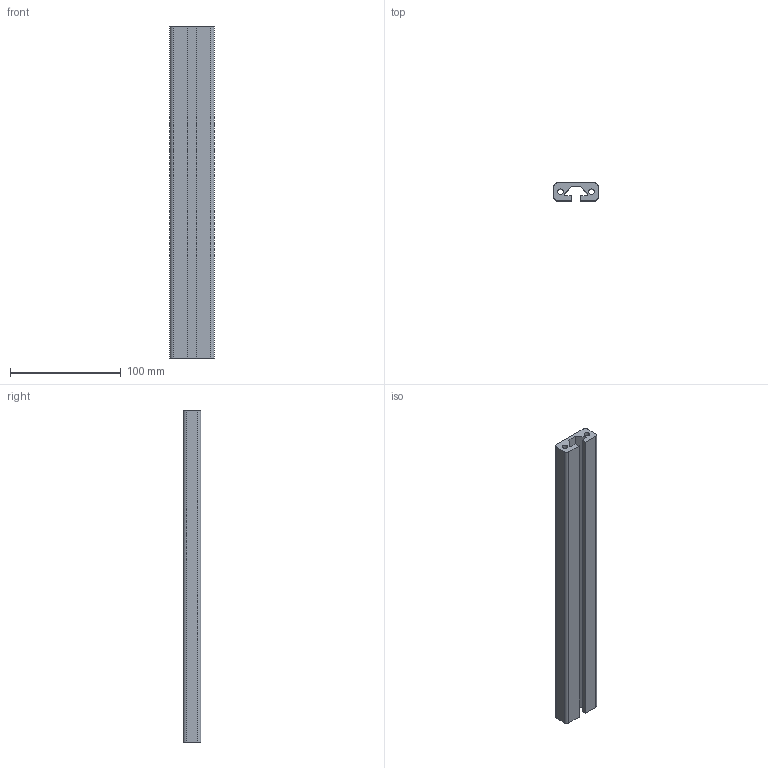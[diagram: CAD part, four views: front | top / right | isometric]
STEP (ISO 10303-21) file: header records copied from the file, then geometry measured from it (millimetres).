
FILE_DESCRIPTION (( 'STEP AP203' ), '1' );
FILE_NAME ('3-CE-1640-8.STEP', '2015-07-07T04:05:26', ( '' ), ( '' ), 'SwSTEP 2.0', 'SolidWorks 2013', '' );
FILE_SCHEMA (( 'CONFIG_CONTROL_DESIGN' ));
Length unit declared in the file: millimetre
Products named in the file (1): 3-CE-1640-8
Bounding box: 40 x 16 x 300 mm (x, y, z)
Volume: 127943.6 mm3; surface area: 54836.7 mm2
Topology: 1 solids, 1 shells, 27 faces, 75 edges, 50 vertices
Faces by surface type: plane 14, cylinder 13
Entity records: 960 total; most frequent: DIRECTION 157, CARTESIAN_POINT 153, ORIENTED_EDGE 150, EDGE_CURVE 75, AXIS2_PLACEMENT_3D 54, VERTEX_POINT 50, LINE 49, VECTOR 49
